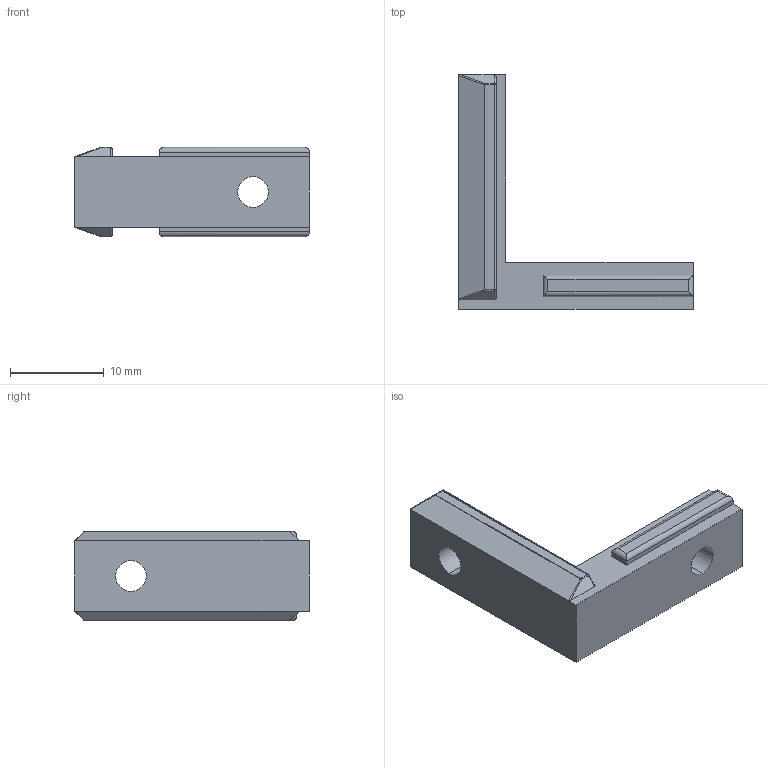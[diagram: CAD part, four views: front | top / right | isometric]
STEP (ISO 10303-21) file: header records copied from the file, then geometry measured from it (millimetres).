
FILE_DESCRIPTION (( 'STEP AP203' ), '1' );
FILE_NAME ('LIMA-IB2020.STEP', '2018-03-15T12:58:15', ( '' ), ( '' ), 'SwSTEP 2.0', 'SolidWorks 2013', '' );
FILE_SCHEMA (( 'CONFIG_CONTROL_DESIGN' ));
Length unit declared in the file: millimetre
Products named in the file (1): LIMA-IB2020
Bounding box: 25 x 25 x 9.5 mm (x, y, z)
Volume: 1793 mm3; surface area: 1380.7 mm2
Topology: 1 solids, 1 shells, 62 faces, 144 edges, 84 vertices
Faces by surface type: cylinder 28, plane 26, sphere 8
Entity records: 1797 total; most frequent: CARTESIAN_POINT 345, ORIENTED_EDGE 288, DIRECTION 284, EDGE_CURVE 144, AXIS2_PLACEMENT_3D 95, VECTOR 94, LINE 94, VERTEX_POINT 84
